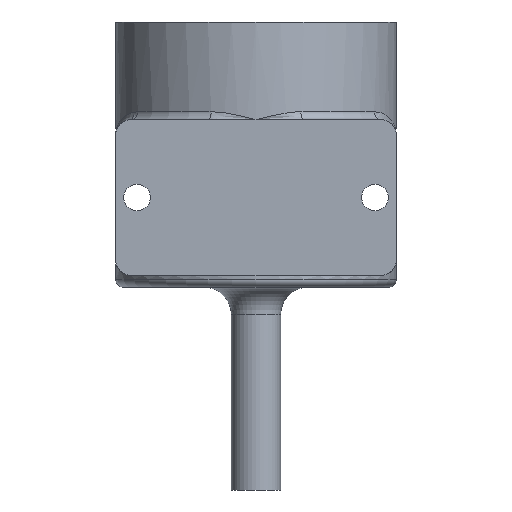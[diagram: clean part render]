
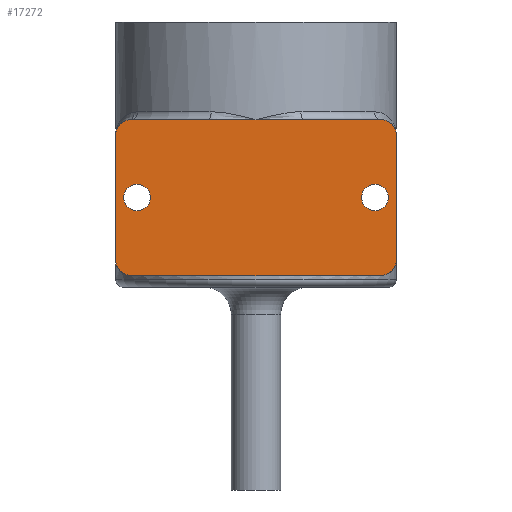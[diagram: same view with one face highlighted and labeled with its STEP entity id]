
A CAD part, front view. The second image highlights one B-rep face of the part: STEP entity #17272.
In plain terms, the highlighted planar face has unit normal (0, -1, 0).
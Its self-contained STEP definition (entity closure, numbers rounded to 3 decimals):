
#740 = DIRECTION ( 'NONE',  ( 1., 0., 0. ) ) ;
#826 = VECTOR ( 'NONE', #6597, 1000. ) ;
#860 = DIRECTION ( 'NONE',  ( 0., -1., 0. ) ) ;
#892 = ORIENTED_EDGE ( 'NONE', *, *, #10686, .T. ) ;
#927 = DIRECTION ( 'NONE',  ( -1., 0., 0. ) ) ;
#1127 = PLANE ( 'NONE',  #12454 ) ;
#1141 = VERTEX_POINT ( 'NONE', #7589 ) ;
#1233 = AXIS2_PLACEMENT_3D ( 'NONE', #21640, #860, #11330 ) ;
#1239 = DIRECTION ( 'NONE',  ( 0., 1., 0. ) ) ;
#1292 = LINE ( 'NONE', #7200, #12928 ) ;
#1317 = DIRECTION ( 'NONE',  ( 1., 0., 0. ) ) ;
#1517 = AXIS2_PLACEMENT_3D ( 'NONE', #21340, #25726, #6848 ) ;
#1623 = ORIENTED_EDGE ( 'NONE', *, *, #1694, .T. ) ;
#1694 = EDGE_CURVE ( 'NONE', #26246, #2810, #10474, .T. ) ;
#1705 = DIRECTION ( 'NONE',  ( 0., -1., 0. ) ) ;
#1709 = EDGE_CURVE ( 'NONE', #18057, #13462, #3871, .T. ) ;
#1762 = ORIENTED_EDGE ( 'NONE', *, *, #25935, .F. ) ;
#2279 = EDGE_CURVE ( 'NONE', #13132, #26900, #26336, .T. ) ;
#2407 = CIRCLE ( 'NONE', #1517, 1.7 ) ;
#2462 = VECTOR ( 'NONE', #740, 1000. ) ;
#2810 = VERTEX_POINT ( 'NONE', #11041 ) ;
#2827 = CARTESIAN_POINT ( 'NONE',  ( 46.523, 33.383, 59.324 ) ) ;
#3204 = DIRECTION ( 'NONE',  ( 0., 1., 0. ) ) ;
#3229 = CIRCLE ( 'NONE', #8948, 1.7 ) ;
#3266 = CARTESIAN_POINT ( 'NONE',  ( 46.523, 33.383, 59.324 ) ) ;
#3391 = CARTESIAN_POINT ( 'NONE',  ( 12.523, 33.383, 79.324 ) ) ;
#3450 = DIRECTION ( 'NONE',  ( 0., 0., 1. ) ) ;
#3618 = DIRECTION ( 'NONE',  ( 0., 0., 1. ) ) ;
#3871 = CIRCLE ( 'NONE', #12248, 2. ) ;
#3979 = LINE ( 'NONE', #4101, #15330 ) ;
#4079 = VERTEX_POINT ( 'NONE', #5836 ) ;
#4101 = CARTESIAN_POINT ( 'NONE',  ( 46.523, 33.383, 79.324 ) ) ;
#4647 = DIRECTION ( 'NONE',  ( 0., -1., 0. ) ) ;
#4961 = CARTESIAN_POINT ( 'NONE',  ( 12.523, 33.383, 77.324 ) ) ;
#4972 = FACE_BOUND ( 'NONE', #23464, .T. ) ;
#5315 = CARTESIAN_POINT ( 'NONE',  ( 13.273, 33.383, 71.024 ) ) ;
#5527 = EDGE_LOOP ( 'NONE', ( #19304, #5805 ) ) ;
#5597 = DIRECTION ( 'NONE',  ( 0., 1., 0. ) ) ;
#5623 = CARTESIAN_POINT ( 'NONE',  ( 44.523, 33.383, 61.324 ) ) ;
#5633 = VERTEX_POINT ( 'NONE', #13741 ) ;
#5755 = CARTESIAN_POINT ( 'NONE',  ( 13.273, 33.383, 69.324 ) ) ;
#5805 = ORIENTED_EDGE ( 'NONE', *, *, #23550, .T. ) ;
#5836 = CARTESIAN_POINT ( 'NONE',  ( 10.523, 33.383, 77.324 ) ) ;
#5916 = ORIENTED_EDGE ( 'NONE', *, *, #5958, .F. ) ;
#5958 = EDGE_CURVE ( 'NONE', #26412, #4079, #1292, .T. ) ;
#6007 = DIRECTION ( 'NONE',  ( 0., 0., 1. ) ) ;
#6289 = VECTOR ( 'NONE', #1317, 1000. ) ;
#6298 = EDGE_CURVE ( 'NONE', #20242, #19880, #3229, .T. ) ;
#6597 = DIRECTION ( 'NONE',  ( 1., 0., 0. ) ) ;
#6732 = ORIENTED_EDGE ( 'NONE', *, *, #9292, .F. ) ;
#6848 = DIRECTION ( 'NONE',  ( 0., 0., 1. ) ) ;
#6913 = AXIS2_PLACEMENT_3D ( 'NONE', #5755, #1239, #3450 ) ;
#6968 = LINE ( 'NONE', #3266, #21939 ) ;
#7200 = CARTESIAN_POINT ( 'NONE',  ( 10.523, 33.383, 59.324 ) ) ;
#7461 = DIRECTION ( 'NONE',  ( 0., 0., 1. ) ) ;
#7519 = ORIENTED_EDGE ( 'NONE', *, *, #16297, .T. ) ;
#7589 = CARTESIAN_POINT ( 'NONE',  ( 46.523, 33.383, 77.324 ) ) ;
#7849 = CARTESIAN_POINT ( 'NONE',  ( 12.523, 33.383, 59.324 ) ) ;
#8262 = AXIS2_PLACEMENT_3D ( 'NONE', #4961, #4647, #23124 ) ;
#8540 = CARTESIAN_POINT ( 'NONE',  ( 28.523, 33.383, 59.324 ) ) ;
#8948 = AXIS2_PLACEMENT_3D ( 'NONE', #9914, #5597, #6007 ) ;
#9201 = ORIENTED_EDGE ( 'NONE', *, *, #19902, .F. ) ;
#9292 = EDGE_CURVE ( 'NONE', #10392, #5633, #3979, .T. ) ;
#9518 = DIRECTION ( 'NONE',  ( 0., 1., 0. ) ) ;
#9611 = EDGE_CURVE ( 'NONE', #16298, #25855, #6968, .T. ) ;
#9914 = CARTESIAN_POINT ( 'NONE',  ( 43.773, 33.383, 69.324 ) ) ;
#10392 = VERTEX_POINT ( 'NONE', #16729 ) ;
#10474 = CIRCLE ( 'NONE', #6913, 1.7 ) ;
#10686 = EDGE_CURVE ( 'NONE', #17060, #4079, #17510, .T. ) ;
#11041 = CARTESIAN_POINT ( 'NONE',  ( 13.273, 33.383, 67.624 ) ) ;
#11330 = DIRECTION ( 'NONE',  ( 0., 0., 1. ) ) ;
#11830 = CARTESIAN_POINT ( 'NONE',  ( 34.606, 33.383, 79.324 ) ) ;
#11991 = DIRECTION ( 'NONE',  ( 0., 0., 1. ) ) ;
#12137 = FACE_OUTER_BOUND ( 'NONE', #26392, .T. ) ;
#12248 = AXIS2_PLACEMENT_3D ( 'NONE', #5623, #16257, #13925 ) ;
#12400 = DIRECTION ( 'NONE',  ( 0., 0., -1. ) ) ;
#12454 = AXIS2_PLACEMENT_3D ( 'NONE', #15462, #3204, #7461 ) ;
#12524 = DIRECTION ( 'NONE',  ( 1., 0., 0. ) ) ;
#12928 = VECTOR ( 'NONE', #26069, 1000. ) ;
#13132 = VERTEX_POINT ( 'NONE', #11830 ) ;
#13180 = CARTESIAN_POINT ( 'NONE',  ( 46.523, 33.383, 61.324 ) ) ;
#13462 = VERTEX_POINT ( 'NONE', #13180 ) ;
#13741 = CARTESIAN_POINT ( 'NONE',  ( 28.523, 33.383, 79.324 ) ) ;
#13925 = DIRECTION ( 'NONE',  ( 0., 0., 1. ) ) ;
#14246 = CIRCLE ( 'NONE', #17742, 2. ) ;
#14868 = CIRCLE ( 'NONE', #1233, 2. ) ;
#15103 = EDGE_CURVE ( 'NONE', #5633, #13132, #16324, .T. ) ;
#15330 = VECTOR ( 'NONE', #12524, 1000. ) ;
#15462 = CARTESIAN_POINT ( 'NONE',  ( 28.523, 33.383, 31.824 ) ) ;
#15490 = CIRCLE ( 'NONE', #24271, 1.7 ) ;
#16016 = CARTESIAN_POINT ( 'NONE',  ( 44.523, 33.383, 77.324 ) ) ;
#16257 = DIRECTION ( 'NONE',  ( 0., -1., 0. ) ) ;
#16297 = EDGE_CURVE ( 'NONE', #2810, #26246, #2407, .T. ) ;
#16298 = VERTEX_POINT ( 'NONE', #8540 ) ;
#16324 = LINE ( 'NONE', #22387, #6289 ) ;
#16438 = ORIENTED_EDGE ( 'NONE', *, *, #19421, .T. ) ;
#16508 = VECTOR ( 'NONE', #12400, 1000. ) ;
#16658 = CARTESIAN_POINT ( 'NONE',  ( 43.773, 33.383, 67.624 ) ) ;
#16729 = CARTESIAN_POINT ( 'NONE',  ( 22.44, 33.383, 79.324 ) ) ;
#17060 = VERTEX_POINT ( 'NONE', #3391 ) ;
#17272 = ADVANCED_FACE ( 'NONE', ( #4972, #12137, #19862 ), #1127, .F. ) ;
#17510 = CIRCLE ( 'NONE', #8262, 2. ) ;
#17742 = AXIS2_PLACEMENT_3D ( 'NONE', #16016, #1705, #3618 ) ;
#18015 = ORIENTED_EDGE ( 'NONE', *, *, #24505, .T. ) ;
#18057 = VERTEX_POINT ( 'NONE', #27005 ) ;
#18639 = ORIENTED_EDGE ( 'NONE', *, *, #2279, .F. ) ;
#19286 = CARTESIAN_POINT ( 'NONE',  ( 43.773, 33.383, 71.024 ) ) ;
#19304 = ORIENTED_EDGE ( 'NONE', *, *, #6298, .T. ) ;
#19421 = EDGE_CURVE ( 'NONE', #26412, #25855, #14868, .T. ) ;
#19616 = DIRECTION ( 'NONE',  ( -1., 0., 0. ) ) ;
#19862 = FACE_BOUND ( 'NONE', #5527, .T. ) ;
#19880 = VERTEX_POINT ( 'NONE', #19286 ) ;
#19902 = EDGE_CURVE ( 'NONE', #17060, #10392, #25475, .T. ) ;
#20102 = CARTESIAN_POINT ( 'NONE',  ( 43.773, 33.383, 69.324 ) ) ;
#20242 = VERTEX_POINT ( 'NONE', #16658 ) ;
#21012 = EDGE_CURVE ( 'NONE', #18057, #16298, #21687, .T. ) ;
#21340 = CARTESIAN_POINT ( 'NONE',  ( 13.273, 33.383, 69.324 ) ) ;
#21640 = CARTESIAN_POINT ( 'NONE',  ( 12.523, 33.383, 61.324 ) ) ;
#21687 = LINE ( 'NONE', #2827, #24622 ) ;
#21939 = VECTOR ( 'NONE', #927, 1000. ) ;
#21956 = ORIENTED_EDGE ( 'NONE', *, *, #15103, .F. ) ;
#22282 = CARTESIAN_POINT ( 'NONE',  ( 10.523, 33.383, 61.324 ) ) ;
#22387 = CARTESIAN_POINT ( 'NONE',  ( 46.523, 33.383, 79.324 ) ) ;
#22652 = ORIENTED_EDGE ( 'NONE', *, *, #9611, .F. ) ;
#22723 = LINE ( 'NONE', #25050, #16508 ) ;
#23023 = CARTESIAN_POINT ( 'NONE',  ( 44.523, 33.383, 79.324 ) ) ;
#23124 = DIRECTION ( 'NONE',  ( 0., 0., 1. ) ) ;
#23464 = EDGE_LOOP ( 'NONE', ( #7519, #1623 ) ) ;
#23550 = EDGE_CURVE ( 'NONE', #19880, #20242, #15490, .T. ) ;
#23946 = CARTESIAN_POINT ( 'NONE',  ( 46.523, 33.383, 79.324 ) ) ;
#24271 = AXIS2_PLACEMENT_3D ( 'NONE', #20102, #9518, #11991 ) ;
#24505 = EDGE_CURVE ( 'NONE', #1141, #26900, #14246, .T. ) ;
#24622 = VECTOR ( 'NONE', #19616, 1000. ) ;
#24827 = ORIENTED_EDGE ( 'NONE', *, *, #1709, .T. ) ;
#25050 = CARTESIAN_POINT ( 'NONE',  ( 46.523, 33.383, 79.324 ) ) ;
#25429 = CARTESIAN_POINT ( 'NONE',  ( 46.523, 33.383, 79.324 ) ) ;
#25475 = LINE ( 'NONE', #23946, #826 ) ;
#25726 = DIRECTION ( 'NONE',  ( 0., 1., 0. ) ) ;
#25855 = VERTEX_POINT ( 'NONE', #7849 ) ;
#25935 = EDGE_CURVE ( 'NONE', #1141, #13462, #22723, .T. ) ;
#26069 = DIRECTION ( 'NONE',  ( 0., 0., 1. ) ) ;
#26246 = VERTEX_POINT ( 'NONE', #5315 ) ;
#26336 = LINE ( 'NONE', #25429, #2462 ) ;
#26392 = EDGE_LOOP ( 'NONE', ( #26921, #24827, #1762, #18015, #18639, #21956, #6732, #9201, #892, #5916, #16438, #22652 ) ) ;
#26412 = VERTEX_POINT ( 'NONE', #22282 ) ;
#26900 = VERTEX_POINT ( 'NONE', #23023 ) ;
#26921 = ORIENTED_EDGE ( 'NONE', *, *, #21012, .F. ) ;
#27005 = CARTESIAN_POINT ( 'NONE',  ( 44.523, 33.383, 59.324 ) ) ;
